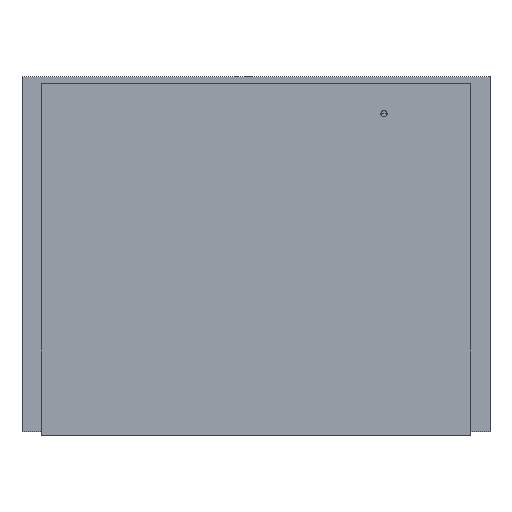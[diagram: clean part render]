
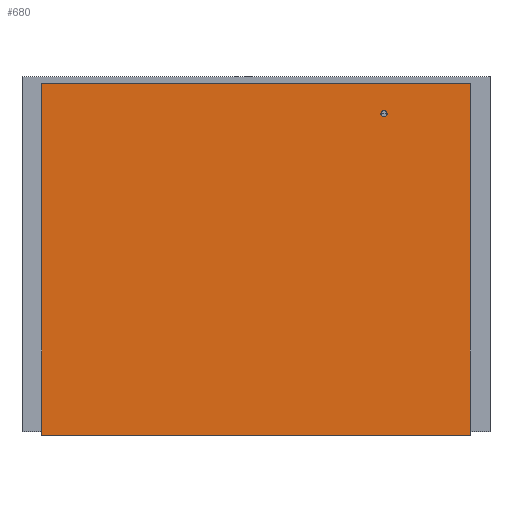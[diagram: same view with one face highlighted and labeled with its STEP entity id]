
A CAD part, left-side view. The second image highlights one B-rep face of the part: STEP entity #680.
In plain terms, the highlighted free-form (B-spline) face has degree [3, 3] with [10, 4] control points.
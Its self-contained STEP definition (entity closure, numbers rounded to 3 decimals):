
#680=ADVANCED_FACE('',(#955),#3245,.T.);
#955=FACE_OUTER_BOUND('',#1231,.T.);
#1231=EDGE_LOOP('',(#1920,#1921,#1922,#1923));
#1920=ORIENTED_EDGE('',*,*,#2621,.F.);
#1921=ORIENTED_EDGE('',*,*,#2624,.T.);
#1922=ORIENTED_EDGE('',*,*,#2625,.T.);
#1923=ORIENTED_EDGE('',*,*,#2626,.F.);
#2621=EDGE_CURVE('',#3020,#3022,#3792,.T.);
#2624=EDGE_CURVE('',#3020,#3024,#3795,.T.);
#2625=EDGE_CURVE('',#3024,#3025,#3796,.T.);
#2626=EDGE_CURVE('',#3022,#3025,#3797,.T.);
#3020=VERTEX_POINT('',#13290);
#3022=VERTEX_POINT('',#13292);
#3024=VERTEX_POINT('',#13294);
#3025=VERTEX_POINT('',#13295);
#3245=B_SPLINE_SURFACE_WITH_KNOTS('',3,3,((#13190,#13191,#13192,#13193),
(#13194,#13195,#13196,#13197),(#13198,#13199,#13200,#13201),(#13202,#13203,
#13204,#13205),(#13206,#13207,#13208,#13209),(#13210,#13211,#13212,#13213),
(#13214,#13215,#13216,#13217),(#13218,#13219,#13220,#13221),(#13222,#13223,
#13224,#13225),(#13226,#13227,#13228,#13229)),.UNSPECIFIED.,.F.,.F.,.F.,
(4,3,3,4),(4,4),(0.,0.333,0.667,1.),(0.,1.),.UNSPECIFIED.);
#3792=B_SPLINE_CURVE_WITH_KNOTS('',1,(#13092,#13093),.UNSPECIFIED.,.F.,.F.,
(2,2),(0.,1.),.UNSPECIFIED.);
#3795=B_SPLINE_CURVE_WITH_KNOTS('',3,(#13098,#13099,#13100,#13101,#13102,
#13103,#13104,#13105,#13106,#13107),.UNSPECIFIED.,.F.,.F.,(4,3,3,4),(0.,
0.333,0.667,1.),.UNSPECIFIED.);
#3796=B_SPLINE_CURVE_WITH_KNOTS('',1,(#13108,#13109),.UNSPECIFIED.,.F.,.F.,
(2,2),(0.,1.),.UNSPECIFIED.);
#3797=B_SPLINE_CURVE_WITH_KNOTS('',3,(#13110,#13111,#13112,#13113,#13114,
#13115,#13116,#13117,#13118,#13119),.UNSPECIFIED.,.F.,.F.,(4,3,3,4),(0.,
0.333,0.667,1.),.UNSPECIFIED.);
#13092=CARTESIAN_POINT('',(-548.089,-272.5,0.046));
#13093=CARTESIAN_POINT('',(-548.089,272.5,0.046));
#13098=CARTESIAN_POINT('',(-548.089,-272.5,0.046));
#13099=CARTESIAN_POINT('',(-548.089,-272.5,49.712));
#13100=CARTESIAN_POINT('',(-548.089,-272.5,99.379));
#13101=CARTESIAN_POINT('',(-548.089,-272.5,149.046));
#13102=CARTESIAN_POINT('',(-548.089,-272.5,198.712));
#13103=CARTESIAN_POINT('',(-548.089,-272.5,248.379));
#13104=CARTESIAN_POINT('',(-548.089,-272.5,298.046));
#13105=CARTESIAN_POINT('',(-548.089,-272.5,347.712));
#13106=CARTESIAN_POINT('',(-548.089,-272.5,397.379));
#13107=CARTESIAN_POINT('',(-548.089,-272.5,447.046));
#13108=CARTESIAN_POINT('',(-548.089,-272.5,447.046));
#13109=CARTESIAN_POINT('',(-548.089,272.5,447.046));
#13110=CARTESIAN_POINT('',(-548.089,272.5,0.046));
#13111=CARTESIAN_POINT('',(-548.089,272.5,49.712));
#13112=CARTESIAN_POINT('',(-548.089,272.5,99.379));
#13113=CARTESIAN_POINT('',(-548.089,272.5,149.046));
#13114=CARTESIAN_POINT('',(-548.089,272.5,198.712));
#13115=CARTESIAN_POINT('',(-548.089,272.5,248.379));
#13116=CARTESIAN_POINT('',(-548.089,272.5,298.046));
#13117=CARTESIAN_POINT('',(-548.089,272.5,347.712));
#13118=CARTESIAN_POINT('',(-548.089,272.5,397.379));
#13119=CARTESIAN_POINT('',(-548.089,272.5,447.046));
#13190=CARTESIAN_POINT('',(-548.089,-272.5,0.046));
#13191=CARTESIAN_POINT('',(-548.089,-90.833,0.046));
#13192=CARTESIAN_POINT('',(-548.089,90.833,0.046));
#13193=CARTESIAN_POINT('',(-548.089,272.5,0.046));
#13194=CARTESIAN_POINT('',(-548.089,-272.5,49.712));
#13195=CARTESIAN_POINT('',(-548.089,-90.833,49.712));
#13196=CARTESIAN_POINT('',(-548.089,90.833,49.712));
#13197=CARTESIAN_POINT('',(-548.089,272.5,49.712));
#13198=CARTESIAN_POINT('',(-548.089,-272.5,99.379));
#13199=CARTESIAN_POINT('',(-548.089,-90.833,99.379));
#13200=CARTESIAN_POINT('',(-548.089,90.833,99.379));
#13201=CARTESIAN_POINT('',(-548.089,272.5,99.379));
#13202=CARTESIAN_POINT('',(-548.089,-272.5,149.046));
#13203=CARTESIAN_POINT('',(-548.089,-90.833,149.046));
#13204=CARTESIAN_POINT('',(-548.089,90.833,149.046));
#13205=CARTESIAN_POINT('',(-548.089,272.5,149.046));
#13206=CARTESIAN_POINT('',(-548.089,-272.5,198.712));
#13207=CARTESIAN_POINT('',(-548.089,-90.833,198.712));
#13208=CARTESIAN_POINT('',(-548.089,90.833,198.712));
#13209=CARTESIAN_POINT('',(-548.089,272.5,198.712));
#13210=CARTESIAN_POINT('',(-548.089,-272.5,248.379));
#13211=CARTESIAN_POINT('',(-548.089,-90.833,248.379));
#13212=CARTESIAN_POINT('',(-548.089,90.833,248.379));
#13213=CARTESIAN_POINT('',(-548.089,272.5,248.379));
#13214=CARTESIAN_POINT('',(-548.089,-272.5,298.046));
#13215=CARTESIAN_POINT('',(-548.089,-90.833,298.046));
#13216=CARTESIAN_POINT('',(-548.089,90.833,298.046));
#13217=CARTESIAN_POINT('',(-548.089,272.5,298.046));
#13218=CARTESIAN_POINT('',(-548.089,-272.5,347.712));
#13219=CARTESIAN_POINT('',(-548.089,-90.833,347.712));
#13220=CARTESIAN_POINT('',(-548.089,90.833,347.712));
#13221=CARTESIAN_POINT('',(-548.089,272.5,347.712));
#13222=CARTESIAN_POINT('',(-548.089,-272.5,397.379));
#13223=CARTESIAN_POINT('',(-548.089,-90.833,397.379));
#13224=CARTESIAN_POINT('',(-548.089,90.833,397.379));
#13225=CARTESIAN_POINT('',(-548.089,272.5,397.379));
#13226=CARTESIAN_POINT('',(-548.089,-272.5,447.046));
#13227=CARTESIAN_POINT('',(-548.089,-90.833,447.046));
#13228=CARTESIAN_POINT('',(-548.089,90.833,447.046));
#13229=CARTESIAN_POINT('',(-548.089,272.5,447.046));
#13290=CARTESIAN_POINT('',(-548.089,-272.5,0.046));
#13292=CARTESIAN_POINT('',(-548.089,272.5,0.046));
#13294=CARTESIAN_POINT('',(-548.089,-272.5,447.046));
#13295=CARTESIAN_POINT('',(-548.089,272.5,447.046));
